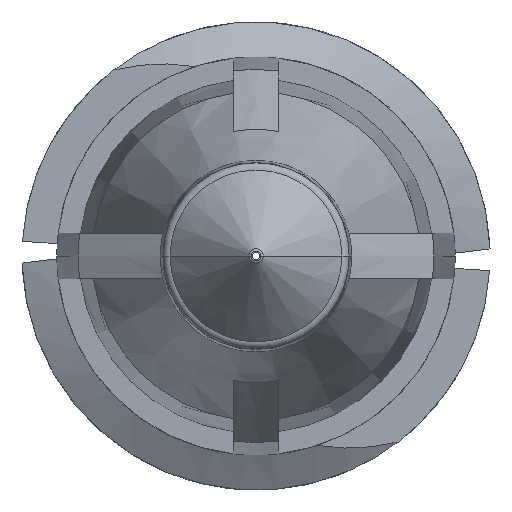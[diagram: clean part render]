
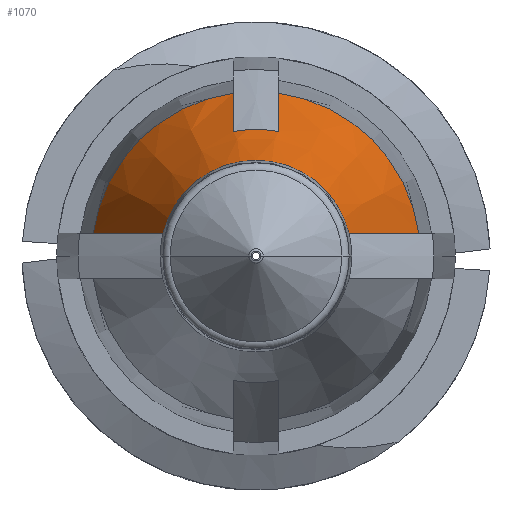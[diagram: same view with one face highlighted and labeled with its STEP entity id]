
A CAD part, front view. The second image highlights one B-rep face of the part: STEP entity #1070.
In plain terms, the highlighted conical face has half-angle 20 degrees and reference radius 2.745 mm.
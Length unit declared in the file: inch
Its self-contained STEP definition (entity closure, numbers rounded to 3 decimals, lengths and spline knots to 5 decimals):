
#78 = CARTESIAN_POINT ( 'NONE',  ( 0., -0.47395, 0. ) ) ;
#117 = ORIENTED_EDGE ( 'NONE', *, *, #2048, .F. ) ;
#143 = CONICAL_SURFACE ( 'NONE', #407, 0.10808, 0.349 ) ;
#147 = VERTEX_POINT ( 'NONE', #523 ) ;
#202 = EDGE_LOOP ( 'NONE', ( #1873, #1506, #2941, #874, #117, #1474, #2293, #1668 ) ) ;
#231 = B_SPLINE_CURVE_WITH_KNOTS ( 'NONE', 3,
 ( #1849, #2127, #2870, #1368 ),
 .UNSPECIFIED., .F., .F.,
 ( 4, 4 ),
 ( 0.00282, 0.00617 ),
 .UNSPECIFIED. ) ;
#261 = DIRECTION ( 'NONE',  ( 0., 1., 0. ) ) ;
#276 = EDGE_CURVE ( 'NONE', #1193, #147, #3011, .T. ) ;
#281 = AXIS2_PLACEMENT_3D ( 'NONE', #2504, #2982, #967 ) ;
#323 = DIRECTION ( 'NONE',  ( 1., 0., 0. ) ) ;
#407 = AXIS2_PLACEMENT_3D ( 'NONE', #1058, #776, #1549 ) ;
#427 = CIRCLE ( 'NONE', #1249, 0.10808 ) ;
#476 = FACE_OUTER_BOUND ( 'NONE', #202, .T. ) ;
#479 = VERTEX_POINT ( 'NONE', #1073 ) ;
#495 = EDGE_CURVE ( 'NONE', #2071, #2527, #3277, .T. ) ;
#523 = CARTESIAN_POINT ( 'NONE',  ( 0.06119, -0.52985, 0.015 ) ) ;
#537 = CARTESIAN_POINT ( 'NONE',  ( -0.015, -0.406, 0.10703 ) ) ;
#594 = CARTESIAN_POINT ( 'NONE',  ( 0.10703, -0.406, 0.015 ) ) ;
#631 = VERTEX_POINT ( 'NONE', #1662 ) ;
#725 = CARTESIAN_POINT ( 'NONE',  ( 0.06119, -0.52985, 0.015 ) ) ;
#764 = EDGE_CURVE ( 'NONE', #2527, #1390, #1705, .T. ) ;
#776 = DIRECTION ( 'NONE',  ( 0., 1., 0. ) ) ;
#874 = ORIENTED_EDGE ( 'NONE', *, *, #1294, .F. ) ;
#903 = CARTESIAN_POINT ( 'NONE',  ( 0.015, -0.42866, 0.0987 ) ) ;
#967 = DIRECTION ( 'NONE',  ( -1., 0., 0. ) ) ;
#1058 = CARTESIAN_POINT ( 'NONE',  ( 0., -0.406, 0. ) ) ;
#1070 = ADVANCED_FACE ( 'NONE', ( #476 ), #143, .T. ) ;
#1073 = CARTESIAN_POINT ( 'NONE',  ( -0.10703, -0.406, 0.015 ) ) ;
#1193 = VERTEX_POINT ( 'NONE', #1651 ) ;
#1222 = DIRECTION ( 'NONE',  ( -1., 0., 0. ) ) ;
#1249 = AXIS2_PLACEMENT_3D ( 'NONE', #2822, #261, #2785 ) ;
#1291 = CARTESIAN_POINT ( 'NONE',  ( -0.015, -0.47395, 0.08198 ) ) ;
#1294 = EDGE_CURVE ( 'NONE', #631, #2338, #1618, .T. ) ;
#1368 = CARTESIAN_POINT ( 'NONE',  ( -0.10703, -0.406, 0.015 ) ) ;
#1390 = VERTEX_POINT ( 'NONE', #2300 ) ;
#1391 = EDGE_CURVE ( 'NONE', #479, #2071, #427, .T. ) ;
#1409 = CARTESIAN_POINT ( 'NONE',  ( 0.015, -0.47395, 0.08198 ) ) ;
#1421 = AXIS2_PLACEMENT_3D ( 'NONE', #78, #1851, #323 ) ;
#1474 = ORIENTED_EDGE ( 'NONE', *, *, #764, .F. ) ;
#1506 = ORIENTED_EDGE ( 'NONE', *, *, #276, .T. ) ;
#1549 = DIRECTION ( 'NONE',  ( -1., 0., 0. ) ) ;
#1578 = CARTESIAN_POINT ( 'NONE',  ( -0.015, -0.42866, 0.0987 ) ) ;
#1618 = CIRCLE ( 'NONE', #281, 0.10808 ) ;
#1651 = CARTESIAN_POINT ( 'NONE',  ( -0.06119, -0.52985, 0.015 ) ) ;
#1662 = CARTESIAN_POINT ( 'NONE',  ( 0.015, -0.406, 0.10703 ) ) ;
#1668 = ORIENTED_EDGE ( 'NONE', *, *, #1391, .F. ) ;
#1673 = CARTESIAN_POINT ( 'NONE',  ( 0.015, -0.45131, 0.09036 ) ) ;
#1705 = CIRCLE ( 'NONE', #1421, 0.08335 ) ;
#1770 = B_SPLINE_CURVE_WITH_KNOTS ( 'NONE', 3,
 ( #725, #2782, #3044, #2522 ),
 .UNSPECIFIED., .F., .F.,
 ( 4, 4 ),
 ( 0.00282, 0.00617 ),
 .UNSPECIFIED. ) ;
#1777 = EDGE_CURVE ( 'NONE', #147, #2338, #1770, .T. ) ;
#1849 = CARTESIAN_POINT ( 'NONE',  ( -0.06119, -0.52985, 0.015 ) ) ;
#1851 = DIRECTION ( 'NONE',  ( 0., 1., 0. ) ) ;
#1873 = ORIENTED_EDGE ( 'NONE', *, *, #3276, .F. ) ;
#1901 = CARTESIAN_POINT ( 'NONE',  ( -0.015, -0.406, 0.10703 ) ) ;
#1975 = CARTESIAN_POINT ( 'NONE',  ( 0., -0.52985, 0. ) ) ;
#2048 = EDGE_CURVE ( 'NONE', #1390, #631, #2544, .T. ) ;
#2071 = VERTEX_POINT ( 'NONE', #1901 ) ;
#2127 = CARTESIAN_POINT ( 'NONE',  ( -0.07664, -0.48863, 0.015 ) ) ;
#2208 = AXIS2_PLACEMENT_3D ( 'NONE', #1975, #3018, #1222 ) ;
#2239 = CARTESIAN_POINT ( 'NONE',  ( -0.015, -0.47395, 0.08198 ) ) ;
#2293 = ORIENTED_EDGE ( 'NONE', *, *, #495, .F. ) ;
#2300 = CARTESIAN_POINT ( 'NONE',  ( 0.015, -0.47395, 0.08198 ) ) ;
#2338 = VERTEX_POINT ( 'NONE', #594 ) ;
#2504 = CARTESIAN_POINT ( 'NONE',  ( 0., -0.406, 0. ) ) ;
#2522 = CARTESIAN_POINT ( 'NONE',  ( 0.10703, -0.406, 0.015 ) ) ;
#2527 = VERTEX_POINT ( 'NONE', #2239 ) ;
#2544 = B_SPLINE_CURVE_WITH_KNOTS ( 'NONE', 3,
 ( #1409, #1673, #903, #3198 ),
 .UNSPECIFIED., .F., .F.,
 ( 4, 4 ),
 ( 0.00247, 0.00431 ),
 .UNSPECIFIED. ) ;
#2782 = CARTESIAN_POINT ( 'NONE',  ( 0.07664, -0.48863, 0.015 ) ) ;
#2785 = DIRECTION ( 'NONE',  ( -1., 0., 0. ) ) ;
#2822 = CARTESIAN_POINT ( 'NONE',  ( 0., -0.406, 0. ) ) ;
#2842 = CARTESIAN_POINT ( 'NONE',  ( -0.015, -0.45131, 0.09036 ) ) ;
#2870 = CARTESIAN_POINT ( 'NONE',  ( -0.09185, -0.44732, 0.015 ) ) ;
#2941 = ORIENTED_EDGE ( 'NONE', *, *, #1777, .T. ) ;
#2982 = DIRECTION ( 'NONE',  ( 0., 1., 0. ) ) ;
#3011 = CIRCLE ( 'NONE', #2208, 0.063 ) ;
#3018 = DIRECTION ( 'NONE',  ( 0., 1., 0. ) ) ;
#3044 = CARTESIAN_POINT ( 'NONE',  ( 0.09185, -0.44732, 0.015 ) ) ;
#3198 = CARTESIAN_POINT ( 'NONE',  ( 0.015, -0.406, 0.10703 ) ) ;
#3276 = EDGE_CURVE ( 'NONE', #1193, #479, #231, .T. ) ;
#3277 = B_SPLINE_CURVE_WITH_KNOTS ( 'NONE', 3,
 ( #537, #1578, #2842, #1291 ),
 .UNSPECIFIED., .F., .F.,
 ( 4, 4 ),
 ( 0.00343, 0.00527 ),
 .UNSPECIFIED. ) ;
